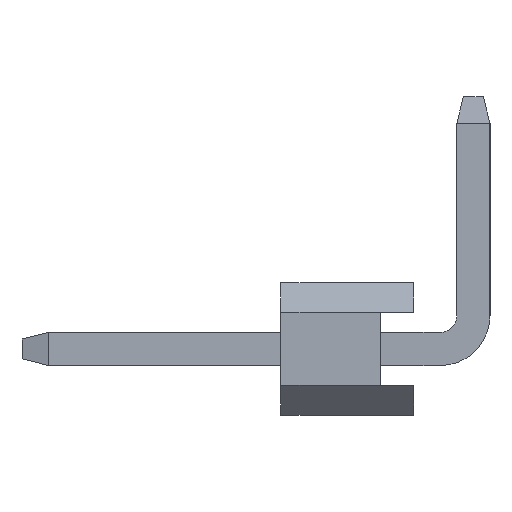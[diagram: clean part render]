
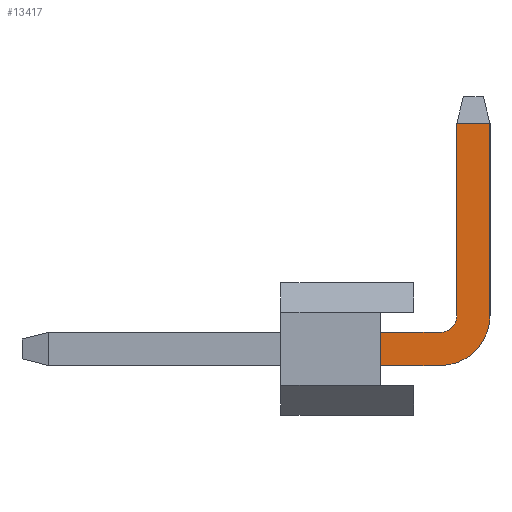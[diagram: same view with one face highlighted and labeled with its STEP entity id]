
A CAD part, left-side view. The second image highlights one B-rep face of the part: STEP entity #13417.
In plain terms, the highlighted planar face has unit normal (-1, 0, 0).
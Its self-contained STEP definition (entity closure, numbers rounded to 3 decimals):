
#237=CIRCLE('',#14336,0.25);
#238=CIRCLE('',#14338,0.75);
#1001=FACE_OUTER_BOUND('',#1829,.T.);
#1829=EDGE_LOOP('',(#11761,#11762,#11763,#11764,#11765,#11766,#11767,#11768));
#3509=LINE('',#21395,#5245);
#3514=LINE('',#21404,#5250);
#3521=LINE('',#21418,#5257);
#3529=LINE('',#21442,#5265);
#3531=LINE('',#21446,#5267);
#3532=LINE('',#21448,#5268);
#5245=VECTOR('',#17669,10.);
#5250=VECTOR('',#17676,10.);
#5257=VECTOR('',#17689,10.);
#5265=VECTOR('',#17715,10.);
#5267=VECTOR('',#17719,10.);
#5268=VECTOR('',#17722,10.);
#6408=VERTEX_POINT('',#21390);
#6409=VERTEX_POINT('',#21394);
#6412=VERTEX_POINT('',#21402);
#6416=VERTEX_POINT('',#21416);
#6421=VERTEX_POINT('',#21432);
#6422=VERTEX_POINT('',#21436);
#6423=VERTEX_POINT('',#21440);
#6424=VERTEX_POINT('',#21444);
#8185=EDGE_CURVE('',#6409,#6408,#3509,.T.);
#8190=EDGE_CURVE('',#6412,#6408,#3514,.T.);
#8197=EDGE_CURVE('',#6416,#6412,#3521,.T.);
#8205=EDGE_CURVE('',#6421,#6416,#237,.T.);
#8207=EDGE_CURVE('',#6422,#6409,#238,.T.);
#8209=EDGE_CURVE('',#6423,#6421,#3529,.T.);
#8211=EDGE_CURVE('',#6424,#6422,#3531,.T.);
#8212=EDGE_CURVE('',#6424,#6423,#3532,.T.);
#11761=ORIENTED_EDGE('',*,*,#8190,.F.);
#11762=ORIENTED_EDGE('',*,*,#8197,.F.);
#11763=ORIENTED_EDGE('',*,*,#8205,.F.);
#11764=ORIENTED_EDGE('',*,*,#8209,.F.);
#11765=ORIENTED_EDGE('',*,*,#8212,.F.);
#11766=ORIENTED_EDGE('',*,*,#8211,.T.);
#11767=ORIENTED_EDGE('',*,*,#8207,.T.);
#11768=ORIENTED_EDGE('',*,*,#8185,.T.);
#12625=PLANE('',#14341);
#13417=ADVANCED_FACE('',(#1001),#12625,.T.);
#14336=AXIS2_PLACEMENT_3D('',#21434,#17705,#17706);
#14338=AXIS2_PLACEMENT_3D('',#21438,#17710,#17711);
#14341=AXIS2_PLACEMENT_3D('',#21447,#17720,#17721);
#17669=DIRECTION('',(0.,0.,1.));
#17676=DIRECTION('',(0.,-1.,0.));
#17689=DIRECTION('',(0.,0.,1.));
#17705=DIRECTION('center_axis',(-1.,0.,0.));
#17706=DIRECTION('ref_axis',(0.,0.,-1.));
#17710=DIRECTION('center_axis',(-1.,0.,0.));
#17711=DIRECTION('ref_axis',(0.,0.,-1.));
#17715=DIRECTION('',(0.,-1.,0.));
#17719=DIRECTION('',(0.,-1.,0.));
#17720=DIRECTION('center_axis',(-1.,0.,0.));
#17721=DIRECTION('ref_axis',(0.,0.,-1.));
#17722=DIRECTION('',(0.,0.,1.));
#21390=CARTESIAN_POINT('',(-35.3,-1.15,2.4));
#21394=CARTESIAN_POINT('',(-35.3,-1.15,-0.5));
#21395=CARTESIAN_POINT('',(-35.3,-1.15,-0.5));
#21402=CARTESIAN_POINT('',(-35.3,-0.65,2.4));
#21404=CARTESIAN_POINT('',(-35.3,-0.2,2.4));
#21416=CARTESIAN_POINT('',(-35.3,-0.65,-0.5));
#21418=CARTESIAN_POINT('',(-35.3,-0.65,-0.5));
#21432=CARTESIAN_POINT('',(-35.3,-0.4,-0.75));
#21434=CARTESIAN_POINT('Origin',(-35.3,-0.4,-0.5));
#21436=CARTESIAN_POINT('',(-35.3,-0.4,-1.25));
#21438=CARTESIAN_POINT('Origin',(-35.3,-0.4,-0.5));
#21440=CARTESIAN_POINT('',(-35.3,0.5,-0.75));
#21442=CARTESIAN_POINT('',(-35.3,0.5,-0.75));
#21444=CARTESIAN_POINT('',(-35.3,0.5,-1.25));
#21446=CARTESIAN_POINT('',(-35.3,0.5,-1.25));
#21447=CARTESIAN_POINT('Origin',(-35.3,0.5,-0.75));
#21448=CARTESIAN_POINT('',(-35.3,0.5,-0.6));
